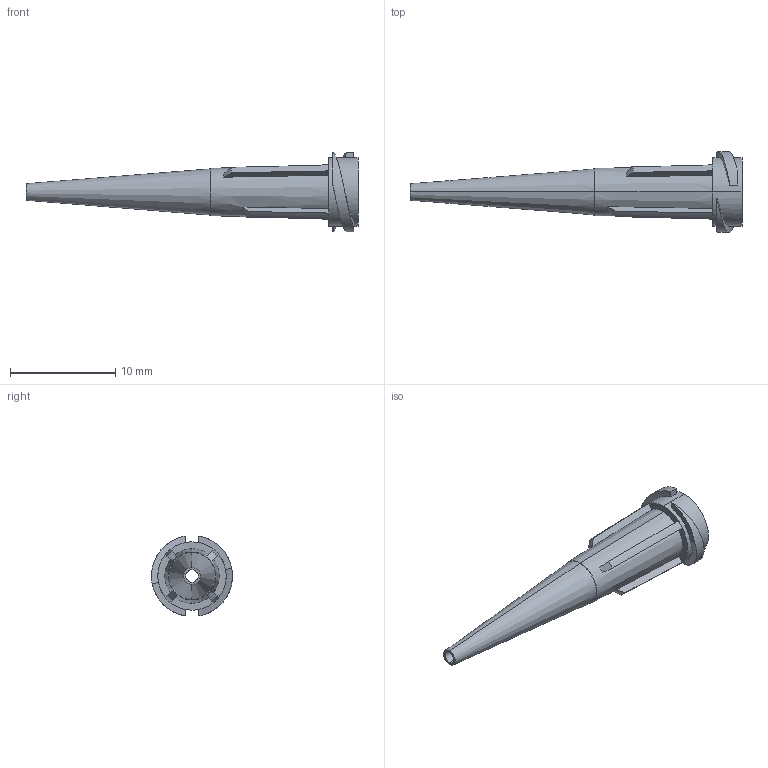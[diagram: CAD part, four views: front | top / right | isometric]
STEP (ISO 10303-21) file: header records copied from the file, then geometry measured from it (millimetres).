
FILE_DESCRIPTION (( 'STEP AP214' ), '1' );
FILE_NAME ('8001270_CUS.STEP', '2021-10-12T11:18:37', ( '' ), ( '' ), 'SwSTEP 2.0', 'SolidWorks 2020', '' );
FILE_SCHEMA (( 'AUTOMOTIVE_DESIGN' ));
Length unit declared in the file: millimetre
Products named in the file (1): 8001270_CUS
Bounding box: 31.55 x 7.69 x 7.59 mm (x, y, z)
Volume: 229.1 mm3; surface area: 813.5 mm2
Topology: 3 solids, 3 shells, 55 faces, 126 edges, 82 vertices
Faces by surface type: plane 25, cone 20, bspline 6, cylinder 4
Entity records: 1824 total; most frequent: CARTESIAN_POINT 554, DIRECTION 254, ORIENTED_EDGE 252, EDGE_CURVE 126, AXIS2_PLACEMENT_3D 100, VERTEX_POINT 82, EDGE_LOOP 62, FACE_OUTER_BOUND 55
